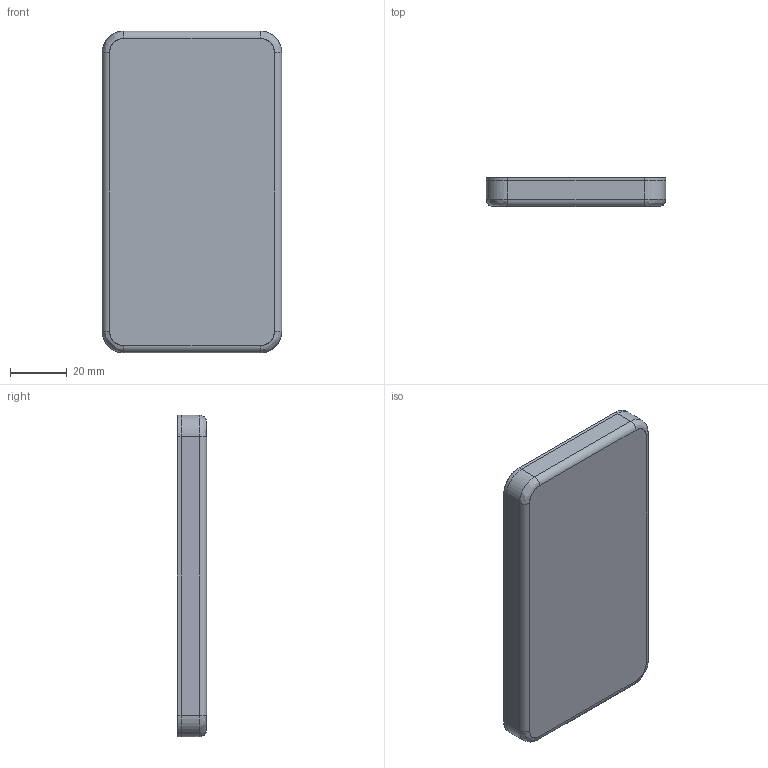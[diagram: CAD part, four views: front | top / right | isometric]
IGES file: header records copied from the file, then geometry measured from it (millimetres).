
Start section: SolidWorks IGES file using analytic representation for surfaces
Global section: file name: C:\Users\ALIENWARE\Documents\PowerBank\Case150Bottom.IGS; native system: SolidWorks 2014; preprocessor: SolidWorks 2014; author: ALIENWARE; date: 150203.151535; units: inch
Bounding box: 63.12 x 10.25 x 113.13 mm (x, y, z)
Surface area: 19664.2 mm2 (no closed solid volume)
Topology: 0 solids, 0 shells, 112 faces, 1138 edges, 1138 vertices
Faces by surface type: bspline 79, revolution 33
